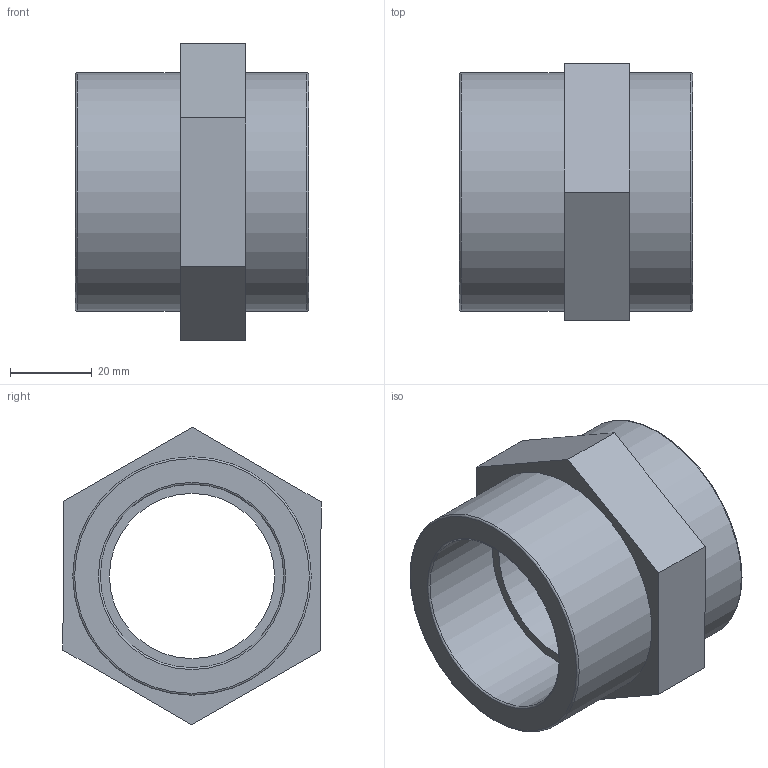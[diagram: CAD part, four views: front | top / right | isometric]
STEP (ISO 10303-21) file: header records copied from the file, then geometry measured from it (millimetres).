
FILE_DESCRIPTION(/* description */ ('PLASSON THREADED SOCKET PVC 1.1/2"'),/* implementation_level */ '2;1');
FILE_NAME(/* name */ 'C:\Dropbox\KIMPROJECTS-Inventor\99-16-3568-Processing\PVC Catalog 2017\050101\050101015.ipt.stp',/* time_stamp */ '2017-12-07T15:51:43+02:00',/* author */ ('KIM'),/* organization */ (''),/* preprocessor_version */ 'ST-DEVELOPER v15.6',/* originating_system */ 'Autodesk Inventor 2015',/* authorisation */ '');
FILE_SCHEMA (('AUTOMOTIVE_DESIGN { 1 0 10303 214 3 1 1 }'));
Length unit declared in the file: millimetre
Products named in the file (1): 050101015
Bounding box: 57 x 63.1 x 72.75 mm (x, y, z)
Volume: 78281.4 mm3; surface area: 23039.2 mm2
Topology: 1 solids, 1 shells, 21 faces, 41 edges, 26 vertices
Faces by surface type: plane 12, cylinder 5, torus 4
Full cylindrical faces by diameter (mm): 40.361 x1, 44.845 x2, 58.298 x2
Entity records: 520 total; most frequent: DIRECTION 90, CARTESIAN_POINT 80, ORIENTED_EDGE 64, EDGE_LOOP 36, AXIS2_PLACEMENT_3D 36, EDGE_CURVE 32, VERTEX_POINT 26, FACE_OUTER_BOUND 21
